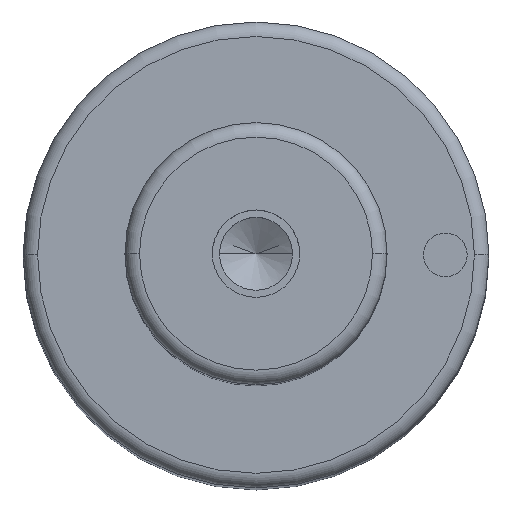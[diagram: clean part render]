
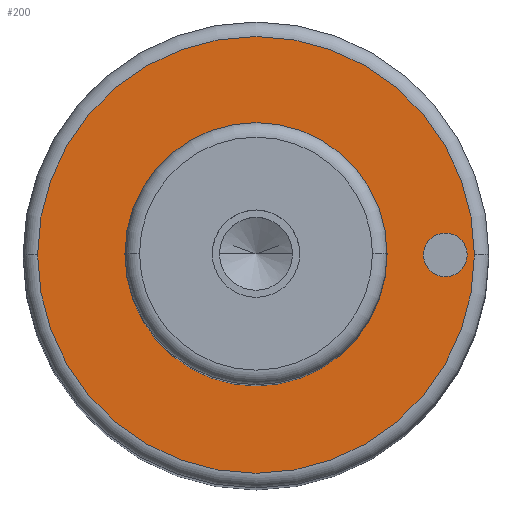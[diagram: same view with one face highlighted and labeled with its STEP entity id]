
A CAD part, top view. The second image highlights one B-rep face of the part: STEP entity #200.
In plain terms, the highlighted planar face has unit normal (0, 0, 1).
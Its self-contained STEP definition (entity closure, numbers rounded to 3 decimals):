
#99=PLANE('',#596);
#107=FACE_BOUND('',#265,.T.);
#108=FACE_BOUND('',#266,.T.);
#109=FACE_BOUND('',#267,.T.);
#200=ADVANCED_FACE('',(#107,#108,#109),#99,.T.);
#265=EDGE_LOOP('',(#359,#360));
#266=EDGE_LOOP('',(#361,#362));
#267=EDGE_LOOP('',(#363,#364));
#359=ORIENTED_EDGE('',*,*,#460,.F.);
#360=ORIENTED_EDGE('',*,*,#461,.F.);
#361=ORIENTED_EDGE('',*,*,#485,.F.);
#362=ORIENTED_EDGE('',*,*,#486,.F.);
#363=ORIENTED_EDGE('',*,*,#456,.T.);
#364=ORIENTED_EDGE('',*,*,#454,.T.);
#411=VERTEX_POINT('',#808);
#412=VERTEX_POINT('',#810);
#413=VERTEX_POINT('',#816);
#416=VERTEX_POINT('',#821);
#430=VERTEX_POINT('',#875);
#431=VERTEX_POINT('',#876);
#454=EDGE_CURVE('',#412,#411,#513,.T.);
#456=EDGE_CURVE('',#411,#412,#514,.T.);
#460=EDGE_CURVE('',#416,#413,#518,.T.);
#461=EDGE_CURVE('',#413,#416,#519,.T.);
#485=EDGE_CURVE('',#430,#431,#533,.T.);
#486=EDGE_CURVE('',#431,#430,#534,.T.);
#513=CIRCLE('',#558,9.);
#514=CIRCLE('',#560,9.);
#518=CIRCLE('',#565,15.);
#519=CIRCLE('',#567,15.);
#533=CIRCLE('',#594,1.5);
#534=CIRCLE('',#595,1.5);
#558=AXIS2_PLACEMENT_3D('',#809,#647,#648);
#560=AXIS2_PLACEMENT_3D('',#813,#652,#653);
#565=AXIS2_PLACEMENT_3D('',#822,#662,#663);
#567=AXIS2_PLACEMENT_3D('',#824,#666,#667);
#594=AXIS2_PLACEMENT_3D('',#874,#730,#731);
#595=AXIS2_PLACEMENT_3D('',#877,#732,#733);
#596=AXIS2_PLACEMENT_3D('',#878,#734,#735);
#647=DIRECTION('',(0.,0.,-1.));
#648=DIRECTION('',(0.,1.,0.));
#652=DIRECTION('',(0.,0.,-1.));
#653=DIRECTION('',(0.,-1.,0.));
#662=DIRECTION('',(0.,0.,-1.));
#663=DIRECTION('',(0.,1.,0.));
#666=DIRECTION('',(0.,0.,-1.));
#667=DIRECTION('',(0.,-1.,0.));
#730=DIRECTION('',(0.,0.,1.));
#731=DIRECTION('',(0.,1.,0.));
#732=DIRECTION('',(0.,0.,1.));
#733=DIRECTION('',(0.,-1.,0.));
#734=DIRECTION('',(0.,0.,1.));
#735=DIRECTION('',(0.,-1.,0.));
#808=CARTESIAN_POINT('',(-9.,0.,84.));
#809=CARTESIAN_POINT('',(0.,0.,84.));
#810=CARTESIAN_POINT('',(9.,0.,84.));
#813=CARTESIAN_POINT('',(0.,0.,84.));
#816=CARTESIAN_POINT('',(-15.,0.,84.));
#821=CARTESIAN_POINT('',(15.,0.,84.));
#822=CARTESIAN_POINT('',(0.,0.,84.));
#824=CARTESIAN_POINT('',(0.,0.,84.));
#874=CARTESIAN_POINT('',(13.,0.,84.));
#875=CARTESIAN_POINT('',(11.5,0.,84.));
#876=CARTESIAN_POINT('',(14.5,0.,84.));
#877=CARTESIAN_POINT('',(13.,0.,84.));
#878=CARTESIAN_POINT('',(0.,0.,84.));
